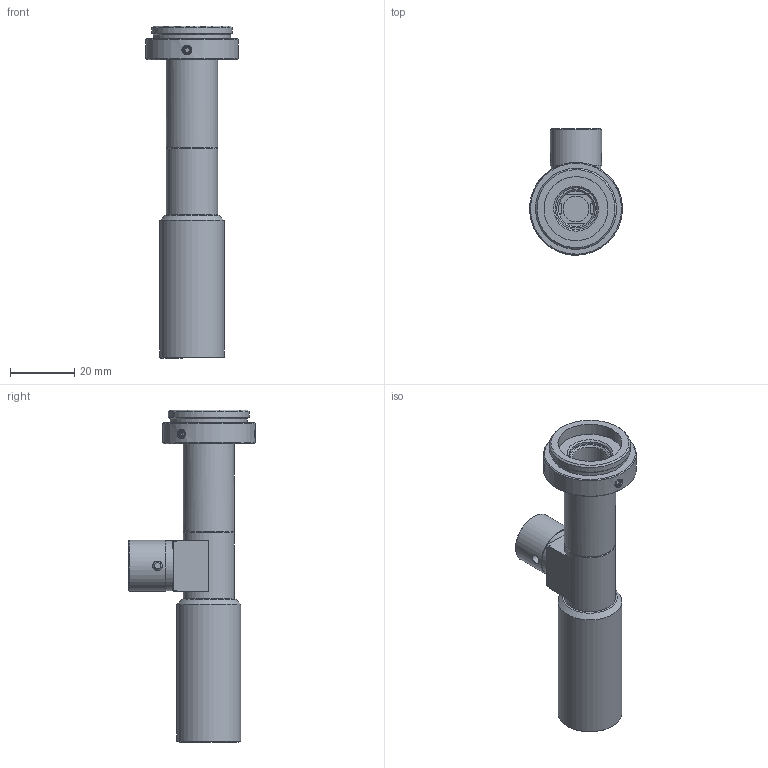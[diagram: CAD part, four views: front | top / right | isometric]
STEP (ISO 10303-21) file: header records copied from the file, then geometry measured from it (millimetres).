
FILE_DESCRIPTION(('STEP AP214'),'1');
FILE_NAME('RTK-1F-110.stp','2026-03-17T01:48:51',(' '),(' '),'Spatial InterOp 3D',' ',' ');
FILE_SCHEMA(('AUTOMOTIVE_DESIGN { 1 0 10303 214 1 1 1 1 }'));
Length unit declared in the file: metre
Products named in the file (2): RTK-1F-110; Component1
Assembly tree (1 placements, depth 2):
  RTK-1F-110
    Component1
Bounding box: 28.94 x 39.5 x 103.63 mm (x, y, z)
Volume: 17167.6 mm3; surface area: 15185 mm2
Topology: 1 solids, 13 shells, 381 faces, 902 edges, 579 vertices
Faces by surface type: plane 182, cone 108, cylinder 75, torus 8, sphere 5, bspline 3
Full cylindrical faces by diameter (mm): 1.7 x8, 1.8 x4, 2.5 x6, 3 x3, 6.5 x1, 8 x2, 9 x1, 10 x1, 11 x1, 12.7 x1, 13 x2, 13.4 x1, 13.7 x1, 14 x2, 14.2 x3, 15 x1, 15.5 x2, 16 x5, 16.5 x1, 17.4 x1, 18.2 x1, 20 x2, 24.12 x1, 25.32 x1, 29 x1
Entity records: 17464 total; most frequent: CARTESIAN_POINT 2585, DIRECTION 1764, ORIENTED_EDGE 1462, STYLED_ITEM 1113, PRESENTATION_STYLE_ASSIGNMENT 1113, COLOUR_RGB 1113, AXIS2_PLACEMENT_3D 747, EDGE_CURVE 731
